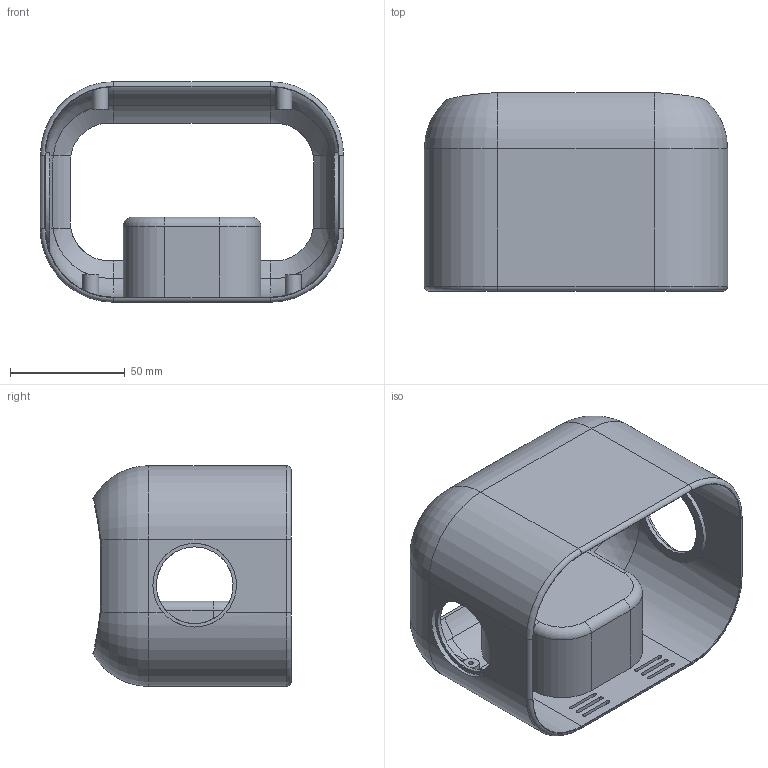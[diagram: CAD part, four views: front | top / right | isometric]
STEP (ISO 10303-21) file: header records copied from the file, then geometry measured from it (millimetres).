
FILE_DESCRIPTION(('Open CASCADE Model'),'2;1');
FILE_NAME('Open CASCADE Shape Model','2026-11-01T16:32:22',('Author'),( 'Open CASCADE'),'Open CASCADE STEP processor 8.0','build123d', 'Unknown');
FILE_SCHEMA(('AUTOMOTIVE_DESIGN { 1 0 10303 214 1 1 1 1 }'));
Products named in the file (1): SOLID
Bounding box: 132 x 86.33 x 96 mm (x, y, z)
Volume: 88900.1 mm3; surface area: 85091.6 mm2
Topology: 1 solids, 1 shells, 234 faces, 628 edges, 394 vertices
Faces by surface type: cylinder 100, plane 82, bspline 28, torus 20, revolution 4
Full cylindrical faces by diameter (mm): 2.2 x4, 2.4 x1, 7 x4, 33.4 x2, 36.4 x2, 42 x2
Entity records: 205794 total; most frequent: CARTESIAN_POINT 194432, DIRECTION 1748, ORIENTED_EDGE 1256, PCURVE 1256, DEFINITIONAL_REPRESENTATION 1256, LINE 875, VECTOR 875, B_SPLINE_CURVE_WITH_KNOTS 715
